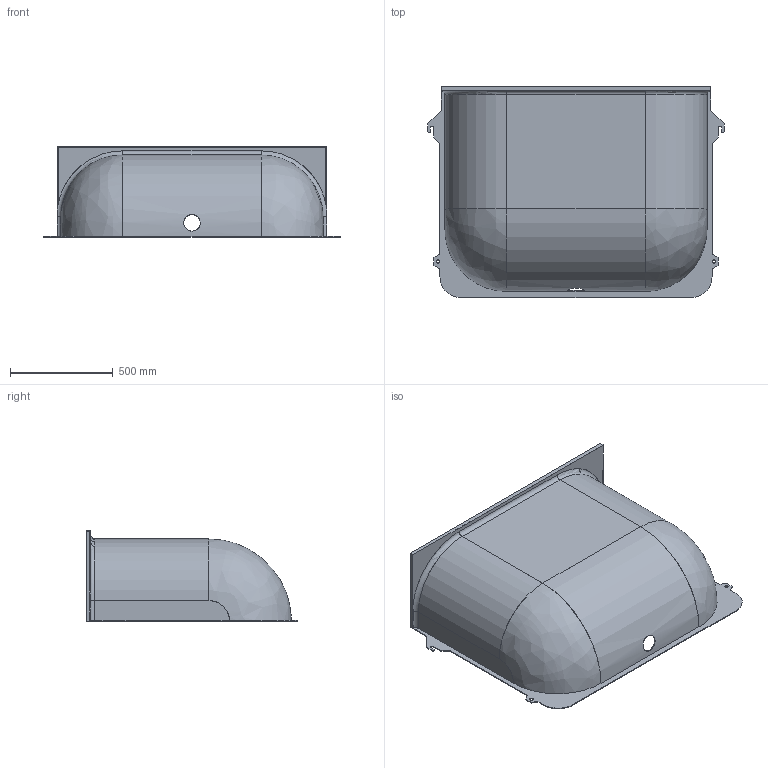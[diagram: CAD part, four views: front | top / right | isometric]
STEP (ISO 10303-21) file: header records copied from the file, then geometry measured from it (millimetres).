
FILE_DESCRIPTION(/* description */ (''),/* implementation_level */ '2;1');
FILE_NAME(/* name */ 'Q:\sge-bs-neu-2008\Marketing\CAD Zeichnungen\3D-CAD-Daten\3D Daten Website\- MEA Multinorm Kunststofflichtschacht\Step\Multinorm_125x100x40.stp',/* time_stamp */ '2019-02-14T10:56:50+01:00',/* author */ ('avgrahammj'),/* organization */ (''),/* preprocessor_version */ 'ST-DEVELOPER v16.1',/* originating_system */ 'Autodesk Inventor 2016',/* authorisation */ '');
FILE_SCHEMA (('AUTOMOTIVE_DESIGN { 1 0 10303 214 3 1 1 }'));
Length unit declared in the file: millimetre
Products named in the file (1): Multinorm_125x100x40
Bounding box: 1440 x 1025 x 440 mm (x, y, z)
Volume: 8642611.7 mm3; surface area: 4346666.8 mm2
Topology: 1 solids, 1 shells, 71 faces, 195 edges, 126 vertices
Faces by surface type: plane 40, cylinder 23, torus 4, bspline 4
Full cylindrical faces by diameter (mm): 16 x2, 80 x1
Entity records: 2488 total; most frequent: CARTESIAN_POINT 642, ORIENTED_EDGE 384, DIRECTION 374, EDGE_CURVE 192, LINE 130, VECTOR 130, VERTEX_POINT 126, AXIS2_PLACEMENT_3D 122
